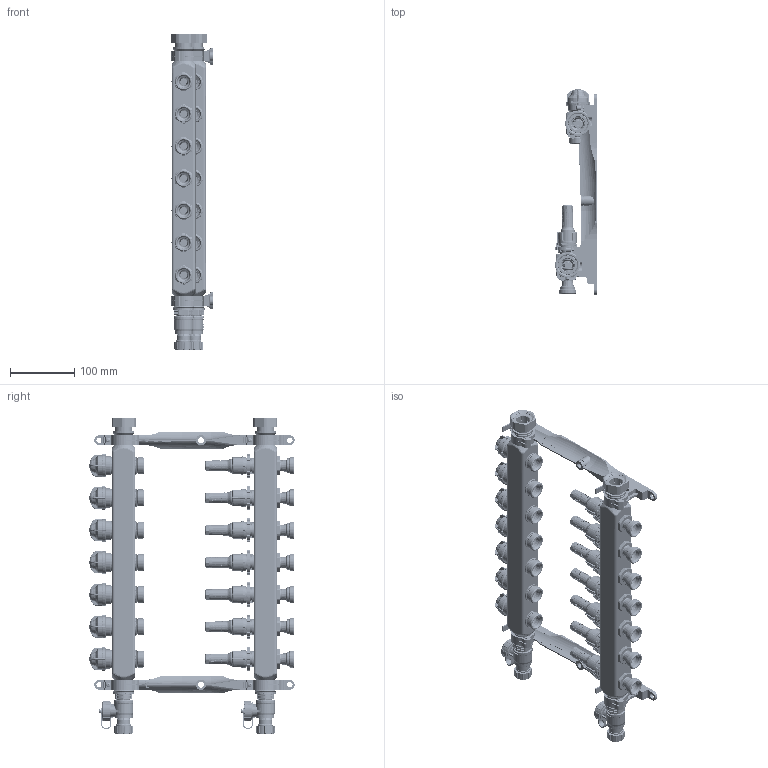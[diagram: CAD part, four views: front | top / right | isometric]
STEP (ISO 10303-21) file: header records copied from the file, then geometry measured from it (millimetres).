
FILE_DESCRIPTION (( 'STEP AP214' ), '1' );
FILE_NAME ('ProCalida_VA_1C_7obiegow.STEP', '2023-10-24T10:02:22', ( '' ), ( '' ), 'SwSTEP 2.0', 'SolidWorks 2022', '' );
FILE_SCHEMA (( 'AUTOMOTIVE_DESIGN' ));
Length unit declared in the file: millimetre
Products named in the file (51): ISO 7049-ST3.5x25-C-H_Blechschrauben_0_3; _X_DCberwurfmutter G1_05 00 350408; Verteiler oben_Baugruppe_2; ProCalida_VA_1C_7obiegow; Anschluss-Flach 3_4 Ni_011 030.115; T_X_DCLLE-FLACH_011 030.016; O-RING_4; ISO 7049-ST3.5x25-C-H_Blechschrauben_0_4; SCHEIBE_011 030.018; DFM 0,5-4 l_min G1_2 KST EK_05 01 00 01; 05 02 00 43_Verschlussdeckel G3_4 mit Lasche; A; Einstellring Verteiler, schwarz_05 01 000181; Ventilk_X_F6rper M30x1,5 G1_2 AG Kst._05 01 000900; 05 01 02 16_KFE-Hahn G3_4 Kunststoff o. Logoaufnahme_0; O-Ring _X_F84,0x2,0 EPDM_801 000 0016_0; O-RING 21,82X3,53_801 000 0127; Spindel mit O-Ring_05 01 00 84; Lasche unten_2; BEDRUCKUNG; Hubvtl. M30x1,5AGxG1_2 KST VT gelb_05 01 01 60_0; Grundk_X_F6rper KFE-Hahn G3_4_05 01 000320_0; Stellmutter M30x1,5 IG grau_05 01 000183; 05 01 000037_Haltelasche f_X_FCr Endmodul_0; 05 01 000035_Verschlussschraube; Bewegung_Baugruppe_2; Wandhalter K_X_F6rper _X_F832_05 01 000265_2; O-Ring _X_F818x2 EPDM_801 000 0177_2; SCHRAUBKAPPE_05 01 000227; Wandhalter _X_F832_05 01 000265_2; O-RING_5; LAGER_05 01 000501; mid; 05 01 000033_Verschlussdeckel G3_4 mit Zapfen_0; Lagerring _X_F826x2,4 EPDM 50_05 01 000501; 05 01 000428_Handrad Caradesign schwarz DFM; Anschlussnippel G1_2 - G3_4_Baugruppe; 801 018 3200_O-Ring _X_F818,0x3,0mm EPDM 70_X_B15 IRHD perox; O-RING 4X2 EPDM_801 000 0016_0; SCHRAUBKAPPE BEDRUCKT_05 01 000227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
Assembly tree (92 placements, depth 6):
  ProCalida_VA_1C_7obiegow
    korp_end  x4
    mid  x10
    LAGER_05 01 000501  x4
    Wandhalter _X_F832_05 01 000265_2  x2
      Lasche oben_2
        Lasche oben_2
        ISO 7049-ST3.5x25-C-H_Blechschrauben_0_3
      Lasche unten_2
        Lasche unten_2
        ISO 7049-ST3.5x25-C-H_Blechschrauben_0_4
      Wandhalter K_X_F6rper _X_F832_05 01 000265_2
    Anschluss-Flach 3_4 Ni_011 030.115  x2
      T_X_DCLLE-FLACH_011 030.016
      SCHEIBE_011 030.018
      O-RING 21,82X3,53_801 000 0127
      _X_DCberwurfmutter G1_05 00 350408
    DFM 0,5-4 l_min G1_2 KST EK_05 01 00 01  x7
      Bewegung_Baugruppe_2
        SCHRAUBKAPPE BEDRUCKT_05 01 000227
          BEDRUCKUNG
          SCHRAUBKAPPE_05 01 000227
        Spindel mit O-Ring_05 01 00 84
          O-RING_4
          O-RING_5
      O-RING_801 000 0177
      Einstellring Verteiler, schwarz_05 01 000181
      05 01 000428_Handrad Caradesign schwarz DFM
      05 01000235_Einschraubk_X_F6rper G1_2
    Verteiler oben_Baugruppe_2  x2
      Lagerring _X_F826x2,4 EPDM 50_05 01 000501
      05 01 02 16_KFE-Hahn G3_4 Kunststoff o. Logoaufnahme_0
        05 02 00 43_Verschlussdeckel G3_4 mit Lasche
          05 01 000037_Haltelasche f_X_FCr Endmodul_0
            LASCHE
            LASCHE_2
            A
          05 01 000033_Verschlussdeckel G3_4 mit Zapfen_0
          801 018 3200_O-Ring _X_F818,0x3,0mm EPDM 70_X_B15 IRHD perox
        05 01 000035_Verschlussschraube
        Grundk_X_F6rper KFE-Hahn G3_4_05 01 000320_0
        05 01 000945_Geh_X_E4use KFE G3_4 ohne Logoaufn.
    Hubvtl. M30x1,5AGxG1_2 KST VT gelb_05 01 01 60_0  x7
      O-RING 4X2 EPDM_801 000 0016_0
      O-Ring _X_F84,0x2,0 EPDM_801 000 0016_0
      Stellmutter M30x1,5 IG grau_05 01 000183
      Ventilk_X_F6rper M30x1,5 G1_2 AG Kst._05 01 000900
    bot  x7
    Anschlussnippel G1_2 - G3_4_Baugruppe  x7
      Einschraubst. G3_4xG1_2x40mm vern._05 02 000007
      O-Ring _X_F818x2 EPDM_801 000 0177_2
Bounding box: 65.98 x 318.7 x 491.22 mm (x, y, z)
Volume: 691397.8 mm3; surface area: 688280 mm2
Topology: 607 solids, 614 shells, 19310 faces, 50556 edges, 32630 vertices
Faces by surface type: plane 8369, cylinder 5028, cone 3456, bspline 2387, torus 70
Entity records: 212370 total; most frequent: CARTESIAN_POINT 82141, ORIENTED_EDGE 20608, DIRECTION 17976, EDGE_CURVE 10304, AXIS2_PLACEMENT_3D 6968, VERTEX_POINT 6674, EDGE_LOOP 4126, VECTOR 4040
